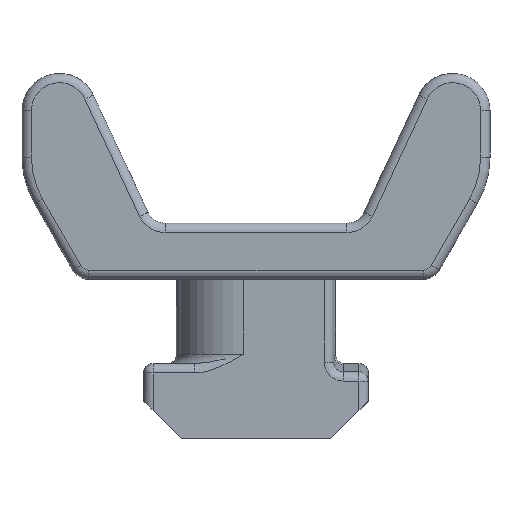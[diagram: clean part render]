
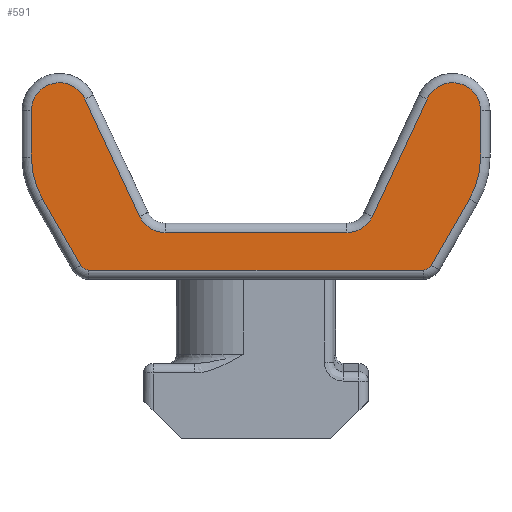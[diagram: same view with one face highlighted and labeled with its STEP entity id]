
A CAD part, left-side view. The second image highlights one B-rep face of the part: STEP entity #591.
In plain terms, the highlighted planar face has unit normal (-1, 0, 0).
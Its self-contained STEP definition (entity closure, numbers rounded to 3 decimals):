
#1 = DIRECTION ( 'NONE',  ( 0., 1., 0. ) ) ;
#31 = DIRECTION ( 'NONE',  ( 0., 0., 1. ) ) ;
#36 = EDGE_CURVE ( 'NONE', #247, #3984, #968, .T. ) ;
#70 = AXIS2_PLACEMENT_3D ( 'NONE', #4068, #4089, #3389 ) ;
#120 = LINE ( 'NONE', #2623, #1042 ) ;
#231 = EDGE_CURVE ( 'NONE', #2523, #3801, #1079, .T. ) ;
#247 = VERTEX_POINT ( 'NONE', #761 ) ;
#308 = EDGE_CURVE ( 'NONE', #1293, #558, #1249, .T. ) ;
#322 = ORIENTED_EDGE ( 'NONE', *, *, #4045, .T. ) ;
#357 = CARTESIAN_POINT ( 'NONE',  ( 618.324, 874.333, 1275.708 ) ) ;
#398 = VERTEX_POINT ( 'NONE', #512 ) ;
#431 = DIRECTION ( 'NONE',  ( 0., 0.423, -0.906 ) ) ;
#477 = VERTEX_POINT ( 'NONE', #1810 ) ;
#481 = ORIENTED_EDGE ( 'NONE', *, *, #2237, .T. ) ;
#512 = CARTESIAN_POINT ( 'NONE',  ( 618.324, 898.329, 1275.708 ) ) ;
#523 = AXIS2_PLACEMENT_3D ( 'NONE', #2515, #3434, #2181 ) ;
#558 = VERTEX_POINT ( 'NONE', #1111 ) ;
#586 = DIRECTION ( 'NONE',  ( 0., 0.423, 0.906 ) ) ;
#591 = ADVANCED_FACE ( 'NONE', ( #1227 ), #2826, .F. ) ;
#600 = CARTESIAN_POINT ( 'NONE',  ( 618.324, 895.47, 1278.806 ) ) ;
#612 = DIRECTION ( 'NONE',  ( 0., 1., 0. ) ) ;
#674 = CARTESIAN_POINT ( 'NONE',  ( 618.324, 891.187, 1271.672 ) ) ;
#677 = ORIENTED_EDGE ( 'NONE', *, *, #1012, .T. ) ;
#698 = AXIS2_PLACEMENT_3D ( 'NONE', #2975, #3046, #1352 ) ;
#724 = VECTOR ( 'NONE', #1760, 1000. ) ;
#751 = CARTESIAN_POINT ( 'NONE',  ( 618.324, 880.115, 1272.538 ) ) ;
#761 = CARTESIAN_POINT ( 'NONE',  ( 618.324, 881.475, 1271.672 ) ) ;
#767 = AXIS2_PLACEMENT_3D ( 'NONE', #3698, #4011, #2793 ) ;
#813 = CARTESIAN_POINT ( 'NONE',  ( 618.324, 874.936, 1273.458 ) ) ;
#841 = VECTOR ( 'NONE', #586, 1000. ) ;
#858 = CARTESIAN_POINT ( 'NONE',  ( 618.324, 877.41, 1270.172 ) ) ;
#865 = ORIENTED_EDGE ( 'NONE', *, *, #3975, .T. ) ;
#890 = CARTESIAN_POINT ( 'NONE',  ( 618.324, 875.833, 1278.172 ) ) ;
#914 = ORIENTED_EDGE ( 'NONE', *, *, #3654, .T. ) ;
#935 = EDGE_CURVE ( 'NONE', #3419, #247, #2006, .T. ) ;
#968 = LINE ( 'NONE', #1007, #3684 ) ;
#975 = CARTESIAN_POINT ( 'NONE',  ( 618.324, 895.47, 1278.806 ) ) ;
#1007 = CARTESIAN_POINT ( 'NONE',  ( 618.324, 891.187, 1271.672 ) ) ;
#1012 = EDGE_CURVE ( 'NONE', #2573, #1253, #2807, .T. ) ;
#1019 = AXIS2_PLACEMENT_3D ( 'NONE', #2482, #2758, #2393 ) ;
#1033 = LINE ( 'NONE', #2117, #3135 ) ;
#1042 = VECTOR ( 'NONE', #2872, 1000. ) ;
#1079 = LINE ( 'NONE', #2372, #724 ) ;
#1097 = VERTEX_POINT ( 'NONE', #2869 ) ;
#1100 = CIRCLE ( 'NONE', #698, 4.5 ) ;
#1111 = CARTESIAN_POINT ( 'NONE',  ( 618.324, 876.977, 1269.922 ) ) ;
#1157 = VERTEX_POINT ( 'NONE', #2567 ) ;
#1163 = DIRECTION ( 'NONE',  ( 0., 0., -1. ) ) ;
#1193 = EDGE_CURVE ( 'NONE', #477, #1293, #3895, .T. ) ;
#1227 = FACE_OUTER_BOUND ( 'NONE', #1420, .T. ) ;
#1249 = CIRCLE ( 'NONE', #1598, 0.5 ) ;
#1253 = VERTEX_POINT ( 'NONE', #975 ) ;
#1269 = CARTESIAN_POINT ( 'NONE',  ( 618.324, 897.726, 1273.458 ) ) ;
#1270 = CARTESIAN_POINT ( 'NONE',  ( 618.324, 877.41, 1269.672 ) ) ;
#1293 = VERTEX_POINT ( 'NONE', #1749 ) ;
#1352 = DIRECTION ( 'NONE',  ( 0., 0., -1. ) ) ;
#1369 = CIRCLE ( 'NONE', #4066, 1.5 ) ;
#1420 = EDGE_LOOP ( 'NONE', ( #865, #3196, #322, #914, #1941, #2165, #4022, #4027, #677, #3363, #1786, #1858, #1869, #481, #3867, #3988 ) ) ;
#1490 = EDGE_CURVE ( 'NONE', #3984, #2573, #3226, .T. ) ;
#1598 = AXIS2_PLACEMENT_3D ( 'NONE', #858, #3447, #1163 ) ;
#1624 = CARTESIAN_POINT ( 'NONE',  ( 618.324, 874.333, 1278.172 ) ) ;
#1729 = VERTEX_POINT ( 'NONE', #813 ) ;
#1749 = CARTESIAN_POINT ( 'NONE',  ( 618.324, 877.41, 1269.672 ) ) ;
#1760 = DIRECTION ( 'NONE',  ( 0., -0.5, -0.866 ) ) ;
#1765 = DIRECTION ( 'NONE',  ( 0., 0., -1. ) ) ;
#1774 = VECTOR ( 'NONE', #431, 1000. ) ;
#1786 = ORIENTED_EDGE ( 'NONE', *, *, #2166, .T. ) ;
#1810 = CARTESIAN_POINT ( 'NONE',  ( 618.324, 895.252, 1269.672 ) ) ;
#1811 = EDGE_CURVE ( 'NONE', #1729, #3745, #1835, .T. ) ;
#1835 = CIRCLE ( 'NONE', #70, 4.5 ) ;
#1858 = ORIENTED_EDGE ( 'NONE', *, *, #2607, .T. ) ;
#1869 = ORIENTED_EDGE ( 'NONE', *, *, #231, .T. ) ;
#1888 = DIRECTION ( 'NONE',  ( 1., 0., 0. ) ) ;
#1928 = EDGE_CURVE ( 'NONE', #2605, #3419, #2678, .T. ) ;
#1941 = ORIENTED_EDGE ( 'NONE', *, *, #1928, .T. ) ;
#2006 = CIRCLE ( 'NONE', #523, 1.5 ) ;
#2013 = CARTESIAN_POINT ( 'NONE',  ( 618.324, 891.187, 1273.172 ) ) ;
#2117 = CARTESIAN_POINT ( 'NONE',  ( 618.324, 898.329, 1275.708 ) ) ;
#2165 = ORIENTED_EDGE ( 'NONE', *, *, #935, .T. ) ;
#2166 = EDGE_CURVE ( 'NONE', #1157, #398, #1033, .T. ) ;
#2181 = DIRECTION ( 'NONE',  ( 0., 0., -1. ) ) ;
#2216 = LINE ( 'NONE', #1624, #2601 ) ;
#2237 = EDGE_CURVE ( 'NONE', #3801, #477, #3463, .T. ) ;
#2286 = CARTESIAN_POINT ( 'NONE',  ( 618.324, 895.685, 1269.922 ) ) ;
#2372 = CARTESIAN_POINT ( 'NONE',  ( 618.324, 895.685, 1269.922 ) ) ;
#2393 = DIRECTION ( 'NONE',  ( 0., 0., -1. ) ) ;
#2482 = CARTESIAN_POINT ( 'NONE',  ( 618.324, 895.252, 1270.172 ) ) ;
#2511 = CARTESIAN_POINT ( 'NONE',  ( 618.324, 880.115, 1272.538 ) ) ;
#2515 = CARTESIAN_POINT ( 'NONE',  ( 618.324, 881.475, 1273.172 ) ) ;
#2523 = VERTEX_POINT ( 'NONE', #1269 ) ;
#2567 = CARTESIAN_POINT ( 'NONE',  ( 618.324, 898.329, 1278.172 ) ) ;
#2573 = VERTEX_POINT ( 'NONE', #2904 ) ;
#2601 = VECTOR ( 'NONE', #31, 1000. ) ;
#2605 = VERTEX_POINT ( 'NONE', #3020 ) ;
#2607 = EDGE_CURVE ( 'NONE', #398, #2523, #1100, .T. ) ;
#2623 = CARTESIAN_POINT ( 'NONE',  ( 618.324, 874.936, 1273.458 ) ) ;
#2678 = LINE ( 'NONE', #751, #1774 ) ;
#2758 = DIRECTION ( 'NONE',  ( -1., 0., 0. ) ) ;
#2793 = DIRECTION ( 'NONE',  ( 0., 0., -1. ) ) ;
#2807 = LINE ( 'NONE', #600, #841 ) ;
#2826 = PLANE ( 'NONE',  #2953 ) ;
#2869 = CARTESIAN_POINT ( 'NONE',  ( 618.324, 874.333, 1278.172 ) ) ;
#2872 = DIRECTION ( 'NONE',  ( 0., -0.5, 0.866 ) ) ;
#2904 = CARTESIAN_POINT ( 'NONE',  ( 618.324, 892.547, 1272.538 ) ) ;
#2953 = AXIS2_PLACEMENT_3D ( 'NONE', #4137, #1888, #1 ) ;
#2975 = CARTESIAN_POINT ( 'NONE',  ( 618.324, 893.829, 1275.708 ) ) ;
#3020 = CARTESIAN_POINT ( 'NONE',  ( 618.324, 877.192, 1278.806 ) ) ;
#3046 = DIRECTION ( 'NONE',  ( -1., 0., 0. ) ) ;
#3075 = CIRCLE ( 'NONE', #767, 1.5 ) ;
#3135 = VECTOR ( 'NONE', #3449, 1000. ) ;
#3157 = VECTOR ( 'NONE', #3237, 1000. ) ;
#3196 = ORIENTED_EDGE ( 'NONE', *, *, #1811, .T. ) ;
#3226 = CIRCLE ( 'NONE', #3487, 1.5 ) ;
#3235 = EDGE_CURVE ( 'NONE', #1253, #1157, #3075, .T. ) ;
#3237 = DIRECTION ( 'NONE',  ( 0., -1., 0. ) ) ;
#3363 = ORIENTED_EDGE ( 'NONE', *, *, #3235, .T. ) ;
#3389 = DIRECTION ( 'NONE',  ( 0., 0., -1. ) ) ;
#3419 = VERTEX_POINT ( 'NONE', #2511 ) ;
#3434 = DIRECTION ( 'NONE',  ( 1., 0., 0. ) ) ;
#3447 = DIRECTION ( 'NONE',  ( -1., 0., 0. ) ) ;
#3449 = DIRECTION ( 'NONE',  ( 0., 0., -1. ) ) ;
#3461 = DIRECTION ( 'NONE',  ( -1., 0., 0. ) ) ;
#3463 = CIRCLE ( 'NONE', #1019, 0.5 ) ;
#3483 = DIRECTION ( 'NONE',  ( 0., 0., -1. ) ) ;
#3487 = AXIS2_PLACEMENT_3D ( 'NONE', #2013, #3996, #1765 ) ;
#3654 = EDGE_CURVE ( 'NONE', #1097, #2605, #1369, .T. ) ;
#3684 = VECTOR ( 'NONE', #612, 1000. ) ;
#3698 = CARTESIAN_POINT ( 'NONE',  ( 618.324, 896.829, 1278.172 ) ) ;
#3745 = VERTEX_POINT ( 'NONE', #357 ) ;
#3801 = VERTEX_POINT ( 'NONE', #2286 ) ;
#3867 = ORIENTED_EDGE ( 'NONE', *, *, #1193, .T. ) ;
#3895 = LINE ( 'NONE', #1270, #3157 ) ;
#3975 = EDGE_CURVE ( 'NONE', #558, #1729, #120, .T. ) ;
#3984 = VERTEX_POINT ( 'NONE', #674 ) ;
#3988 = ORIENTED_EDGE ( 'NONE', *, *, #308, .T. ) ;
#3996 = DIRECTION ( 'NONE',  ( 1., 0., 0. ) ) ;
#4011 = DIRECTION ( 'NONE',  ( -1., 0., 0. ) ) ;
#4022 = ORIENTED_EDGE ( 'NONE', *, *, #36, .T. ) ;
#4027 = ORIENTED_EDGE ( 'NONE', *, *, #1490, .T. ) ;
#4045 = EDGE_CURVE ( 'NONE', #3745, #1097, #2216, .T. ) ;
#4066 = AXIS2_PLACEMENT_3D ( 'NONE', #890, #3461, #3483 ) ;
#4068 = CARTESIAN_POINT ( 'NONE',  ( 618.324, 878.833, 1275.708 ) ) ;
#4089 = DIRECTION ( 'NONE',  ( -1., 0., 0. ) ) ;
#4137 = CARTESIAN_POINT ( 'NONE',  ( 618.324, 879.338, 1273.308 ) ) ;
